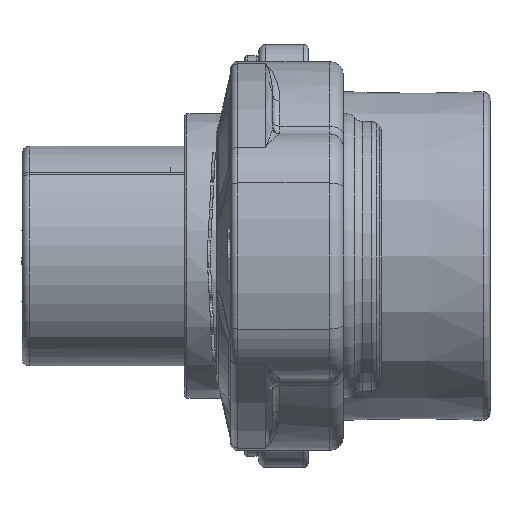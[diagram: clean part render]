
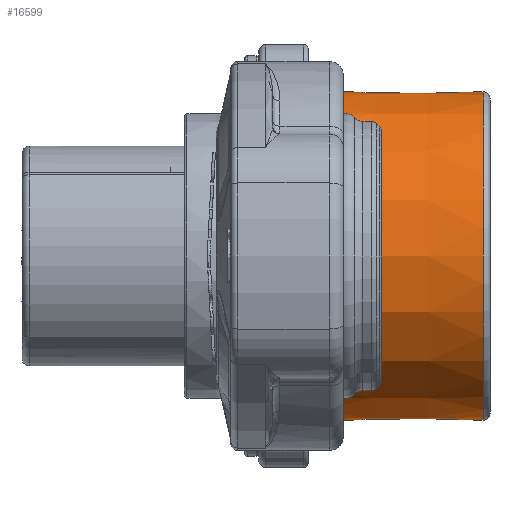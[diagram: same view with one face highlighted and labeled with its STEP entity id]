
A CAD part, front view. The second image highlights one B-rep face of the part: STEP entity #16599.
In plain terms, the highlighted conical face has half-angle 0.5 degrees and reference radius 11.65 mm.
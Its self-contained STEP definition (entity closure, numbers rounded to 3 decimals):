
#1769 = AXIS2_PLACEMENT_3D ( 'NONE', #21895, #27348, #46526 ) ;
#1875 = CARTESIAN_POINT ( 'NONE',  ( -0.496, 8.733, -7.718 ) ) ;
#5515 = CARTESIAN_POINT ( 'NONE',  ( -12.404, 8.786, -7.814 ) ) ;
#5674 = B_SPLINE_CURVE_WITH_KNOTS ( 'NONE', 3,
 ( #57456, #51608, #14006, #76669, #82517, #19456, #77072 ),
 .UNSPECIFIED., .F., .F.,
 ( 4, 3, 4 ),
 ( 0., 0.006, 0.012 ),
 .UNSPECIFIED. ) ;
#6349 = EDGE_CURVE ( 'NONE', #50273, #62841, #5674, .T. ) ;
#8891 = DIRECTION ( 'NONE',  ( 0., 0., 1. ) ) ;
#11053 = EDGE_CURVE ( 'NONE', #35306, #50273, #61704, .T. ) ;
#14006 = CARTESIAN_POINT ( 'NONE',  ( -8.735, 8.77, -7.785 ) ) ;
#16599 = ADVANCED_FACE ( 'NONE', ( #60621 ), #53852, .T. ) ;
#19456 = CARTESIAN_POINT ( 'NONE',  ( -2.631, 8.742, -7.735 ) ) ;
#19856 = CARTESIAN_POINT ( 'NONE',  ( -0.496, 0., 0. ) ) ;
#21895 = CARTESIAN_POINT ( 'NONE',  ( -12.404, 0., 0. ) ) ;
#27348 = DIRECTION ( 'NONE',  ( 1., 0., 0. ) ) ;
#32544 = B_SPLINE_CURVE_WITH_KNOTS ( 'NONE', 3,
 ( #46924, #39448, #72392, #46105, #71567, #46507, #32777 ),
 .UNSPECIFIED., .F., .F.,
 ( 4, 3, 4 ),
 ( 0., 0.006, 0.012 ),
 .UNSPECIFIED. ) ;
#32777 = CARTESIAN_POINT ( 'NONE',  ( -12.404, 8.786, 7.814 ) ) ;
#34035 = DIRECTION ( 'NONE',  ( -1., 0., 0. ) ) ;
#34782 = CIRCLE ( 'NONE', #45439, 11.654 ) ;
#35306 = VERTEX_POINT ( 'NONE', #43451 ) ;
#39448 = CARTESIAN_POINT ( 'NONE',  ( -2.33, 8.741, 7.733 ) ) ;
#43451 = CARTESIAN_POINT ( 'NONE',  ( -12.404, 8.786, 7.814 ) ) ;
#44771 = ORIENTED_EDGE ( 'NONE', *, *, #11053, .T. ) ;
#45439 = AXIS2_PLACEMENT_3D ( 'NONE', #19856, #34035, #52799 ) ;
#46105 = CARTESIAN_POINT ( 'NONE',  ( -6., 8.757, 7.762 ) ) ;
#46507 = CARTESIAN_POINT ( 'NONE',  ( -10.269, 8.776, 7.797 ) ) ;
#46526 = DIRECTION ( 'NONE',  ( 0., 0., 1. ) ) ;
#46897 = EDGE_LOOP ( 'NONE', ( #75958, #44771, #73701, #50523 ) ) ;
#46924 = CARTESIAN_POINT ( 'NONE',  ( -0.496, 8.733, 7.718 ) ) ;
#50273 = VERTEX_POINT ( 'NONE', #5515 ) ;
#50523 = ORIENTED_EDGE ( 'NONE', *, *, #73834, .T. ) ;
#51608 = CARTESIAN_POINT ( 'NONE',  ( -10.57, 8.778, -7.8 ) ) ;
#52799 = DIRECTION ( 'NONE',  ( 0., 0., -1. ) ) ;
#53852 = CONICAL_SURFACE ( 'NONE', #74011, 11.65, 0.009 ) ;
#54791 = CARTESIAN_POINT ( 'NONE',  ( 0., 0., 0. ) ) ;
#55693 = EDGE_CURVE ( 'NONE', #73375, #35306, #32544, .T. ) ;
#57456 = CARTESIAN_POINT ( 'NONE',  ( -12.404, 8.786, -7.814 ) ) ;
#60621 = FACE_OUTER_BOUND ( 'NONE', #46897, .T. ) ;
#61704 = CIRCLE ( 'NONE', #1769, 11.758 ) ;
#62841 = VERTEX_POINT ( 'NONE', #1875 ) ;
#67740 = DIRECTION ( 'NONE',  ( -1., 0., 0. ) ) ;
#71567 = CARTESIAN_POINT ( 'NONE',  ( -8.135, 8.767, 7.78 ) ) ;
#72392 = CARTESIAN_POINT ( 'NONE',  ( -4.165, 8.749, 7.747 ) ) ;
#73375 = VERTEX_POINT ( 'NONE', #79694 ) ;
#73701 = ORIENTED_EDGE ( 'NONE', *, *, #6349, .T. ) ;
#73834 = EDGE_CURVE ( 'NONE', #62841, #73375, #34782, .T. ) ;
#74011 = AXIS2_PLACEMENT_3D ( 'NONE', #54791, #67740, #8891 ) ;
#75958 = ORIENTED_EDGE ( 'NONE', *, *, #55693, .T. ) ;
#76669 = CARTESIAN_POINT ( 'NONE',  ( -6.9, 8.761, -7.77 ) ) ;
#77072 = CARTESIAN_POINT ( 'NONE',  ( -0.496, 8.733, -7.718 ) ) ;
#79694 = CARTESIAN_POINT ( 'NONE',  ( -0.496, 8.733, 7.718 ) ) ;
#82517 = CARTESIAN_POINT ( 'NONE',  ( -4.765, 8.752, -7.752 ) ) ;
